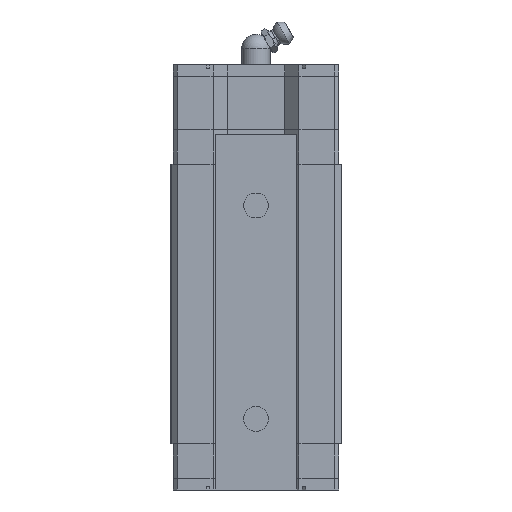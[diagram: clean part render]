
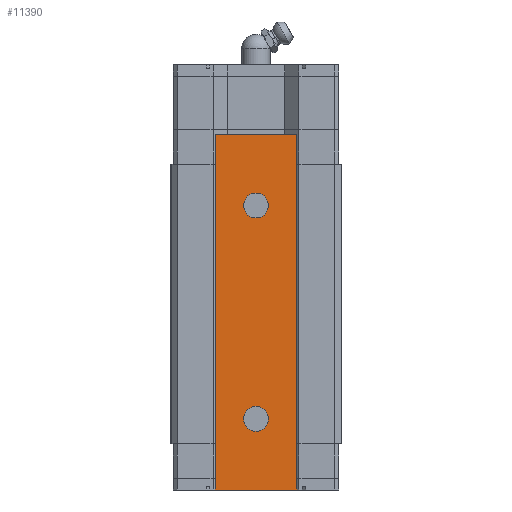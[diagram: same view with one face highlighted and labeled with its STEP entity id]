
A CAD part, front view. The second image highlights one B-rep face of the part: STEP entity #11390.
In plain terms, the highlighted planar face has unit normal (0, -1, 0).
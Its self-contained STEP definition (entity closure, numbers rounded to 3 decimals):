
#228 = VERTEX_POINT ( 'NONE', #14789 ) ;
#662 = CARTESIAN_POINT ( 'NONE',  ( 0., -5.6, 33.5 ) ) ;
#1277 = CARTESIAN_POINT ( 'NONE',  ( -11.5, -5.6, 50. ) ) ;
#1463 = CARTESIAN_POINT ( 'NONE',  ( -11.5, -5.6, 50. ) ) ;
#2202 = CARTESIAN_POINT ( 'NONE',  ( 0., -5.6, -30. ) ) ;
#2400 = AXIS2_PLACEMENT_3D ( 'NONE', #2202, #4627, #18602 ) ;
#3728 = CARTESIAN_POINT ( 'NONE',  ( -11.5, -5.6, -50. ) ) ;
#4151 = VECTOR ( 'NONE', #8184, 1000. ) ;
#4413 = VECTOR ( 'NONE', #18001, 1000. ) ;
#4627 = DIRECTION ( 'NONE',  ( 0., -1., 0. ) ) ;
#5642 = LINE ( 'NONE', #24694, #4151 ) ;
#5902 = LINE ( 'NONE', #8548, #4413 ) ;
#6167 = AXIS2_PLACEMENT_3D ( 'NONE', #25027, #27784, #8711 ) ;
#7332 = EDGE_CURVE ( 'NONE', #29904, #17754, #20649, .T. ) ;
#7943 = CARTESIAN_POINT ( 'NONE',  ( -11.5, -5.6, 50. ) ) ;
#8184 = DIRECTION ( 'NONE',  ( 1., 0., 0. ) ) ;
#8548 = CARTESIAN_POINT ( 'NONE',  ( 11.5, -5.6, 50. ) ) ;
#8711 = DIRECTION ( 'NONE',  ( 0., 0., -1. ) ) ;
#9407 = CIRCLE ( 'NONE', #6167, 3.5 ) ;
#9580 = FACE_BOUND ( 'NONE', #9889, .T. ) ;
#9889 = EDGE_LOOP ( 'NONE', ( #18983, #10379 ) ) ;
#9961 = VERTEX_POINT ( 'NONE', #20839 ) ;
#10140 = AXIS2_PLACEMENT_3D ( 'NONE', #1277, #23019, #13120 ) ;
#10162 = EDGE_CURVE ( 'NONE', #29355, #9961, #29378, .T. ) ;
#10379 = ORIENTED_EDGE ( 'NONE', *, *, #7332, .F. ) ;
#10740 = PLANE ( 'NONE',  #10140 ) ;
#10870 = VERTEX_POINT ( 'NONE', #12581 ) ;
#11390 = ADVANCED_FACE ( 'NONE', ( #9580, #18164, #18501 ), #10740, .F. ) ;
#11454 = VERTEX_POINT ( 'NONE', #3728 ) ;
#11526 = ORIENTED_EDGE ( 'NONE', *, *, #12902, .F. ) ;
#12036 = EDGE_CURVE ( 'NONE', #9961, #228, #5902, .T. ) ;
#12383 = DIRECTION ( 'NONE',  ( 0., 0., -1. ) ) ;
#12581 = CARTESIAN_POINT ( 'NONE',  ( 0., -5.6, 26.5 ) ) ;
#12902 = EDGE_CURVE ( 'NONE', #22023, #10870, #9407, .T. ) ;
#13120 = DIRECTION ( 'NONE',  ( 0., 0., 1. ) ) ;
#13122 = EDGE_CURVE ( 'NONE', #10870, #22023, #28680, .T. ) ;
#13351 = VECTOR ( 'NONE', #12383, 1000. ) ;
#14789 = CARTESIAN_POINT ( 'NONE',  ( 11.5, -5.6, -50. ) ) ;
#15746 = CARTESIAN_POINT ( 'NONE',  ( 0., -5.6, -26.5 ) ) ;
#15867 = DIRECTION ( 'NONE',  ( 1., 0., 0. ) ) ;
#17363 = EDGE_CURVE ( 'NONE', #17754, #29904, #29237, .T. ) ;
#17754 = VERTEX_POINT ( 'NONE', #21718 ) ;
#17902 = CARTESIAN_POINT ( 'NONE',  ( -11.5, -5.6, 50. ) ) ;
#18001 = DIRECTION ( 'NONE',  ( 0., 0., -1. ) ) ;
#18164 = FACE_BOUND ( 'NONE', #23080, .T. ) ;
#18501 = FACE_OUTER_BOUND ( 'NONE', #23203, .T. ) ;
#18602 = DIRECTION ( 'NONE',  ( 0., 0., -1. ) ) ;
#18721 = ORIENTED_EDGE ( 'NONE', *, *, #12036, .F. ) ;
#18983 = ORIENTED_EDGE ( 'NONE', *, *, #17363, .F. ) ;
#19405 = DIRECTION ( 'NONE',  ( 0., 0., -1. ) ) ;
#19905 = AXIS2_PLACEMENT_3D ( 'NONE', #20280, #22378, #29264 ) ;
#20280 = CARTESIAN_POINT ( 'NONE',  ( 0., -5.6, -30. ) ) ;
#20649 = CIRCLE ( 'NONE', #19905, 3.5 ) ;
#20839 = CARTESIAN_POINT ( 'NONE',  ( 11.5, -5.6, 50. ) ) ;
#21718 = CARTESIAN_POINT ( 'NONE',  ( 0., -5.6, -33.5 ) ) ;
#21951 = ORIENTED_EDGE ( 'NONE', *, *, #28202, .T. ) ;
#22023 = VERTEX_POINT ( 'NONE', #662 ) ;
#22104 = CARTESIAN_POINT ( 'NONE',  ( 0., -5.6, 30. ) ) ;
#22209 = ORIENTED_EDGE ( 'NONE', *, *, #10162, .F. ) ;
#22378 = DIRECTION ( 'NONE',  ( 0., -1., 0. ) ) ;
#23019 = DIRECTION ( 'NONE',  ( 0., 1., 0. ) ) ;
#23049 = LINE ( 'NONE', #7943, #13351 ) ;
#23080 = EDGE_LOOP ( 'NONE', ( #24554, #11526 ) ) ;
#23203 = EDGE_LOOP ( 'NONE', ( #21951, #23419, #18721, #22209 ) ) ;
#23419 = ORIENTED_EDGE ( 'NONE', *, *, #27679, .T. ) ;
#24437 = DIRECTION ( 'NONE',  ( 0., -1., 0. ) ) ;
#24554 = ORIENTED_EDGE ( 'NONE', *, *, #13122, .F. ) ;
#24694 = CARTESIAN_POINT ( 'NONE',  ( -11.5, -5.6, -50. ) ) ;
#25027 = CARTESIAN_POINT ( 'NONE',  ( 0., -5.6, 30. ) ) ;
#25843 = AXIS2_PLACEMENT_3D ( 'NONE', #22104, #24437, #19405 ) ;
#26141 = VECTOR ( 'NONE', #15867, 1000. ) ;
#27679 = EDGE_CURVE ( 'NONE', #11454, #228, #5642, .T. ) ;
#27784 = DIRECTION ( 'NONE',  ( 0., -1., 0. ) ) ;
#28202 = EDGE_CURVE ( 'NONE', #29355, #11454, #23049, .T. ) ;
#28680 = CIRCLE ( 'NONE', #25843, 3.5 ) ;
#29237 = CIRCLE ( 'NONE', #2400, 3.5 ) ;
#29264 = DIRECTION ( 'NONE',  ( 0., 0., -1. ) ) ;
#29355 = VERTEX_POINT ( 'NONE', #1463 ) ;
#29378 = LINE ( 'NONE', #17902, #26141 ) ;
#29904 = VERTEX_POINT ( 'NONE', #15746 ) ;
